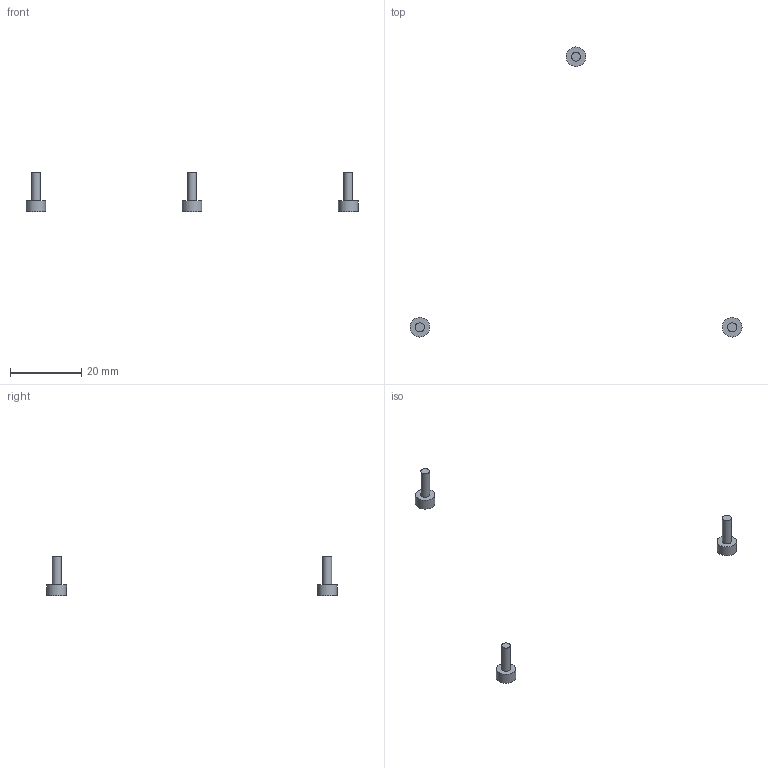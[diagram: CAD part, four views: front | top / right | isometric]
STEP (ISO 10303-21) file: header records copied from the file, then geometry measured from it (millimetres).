
FILE_DESCRIPTION(('Open CASCADE Model'),'2;1');
FILE_NAME('Open CASCADE Shape Model','2026-09-23T04:43:37',('Author'),( 'Open CASCADE'),'Open CASCADE STEP processor 7.9','Open CASCADE 7.9' ,'Unknown');
FILE_SCHEMA(('AUTOMOTIVE_DESIGN { 1 0 10303 214 1 1 1 1 }'));
Length unit declared in the file: millimetre
Products named in the file (4): Open CASCADE STEP translator 7.9 7; Open CASCADE STEP translator 7.9 7.1; Open CASCADE STEP translator 7.9 7.2; Open CASCADE STEP translator 7.9 7.3
Assembly tree (3 placements, depth 2):
  Open CASCADE STEP translator 7.9 7
    Open CASCADE STEP translator 7.9 7.1
    Open CASCADE STEP translator 7.9 7.2
    Open CASCADE STEP translator 7.9 7.3
Bounding box: 92.97 x 81.25 x 11 mm (x, y, z)
Volume: 307.3 mm3; surface area: 525.5 mm2
Topology: 3 solids, 3 shells, 36 faces, 72 edges, 48 vertices
Faces by surface type: plane 30, cylinder 6
Full cylindrical faces by diameter (mm): 2.5 x3, 5.5 x3
Entity records: 1924 total; most frequent: DIRECTION 308, CARTESIAN_POINT 304, LINE 192, VECTOR 192, ORIENTED_EDGE 144, PCURVE 144, DEFINITIONAL_REPRESENTATION 144, EDGE_CURVE 72
